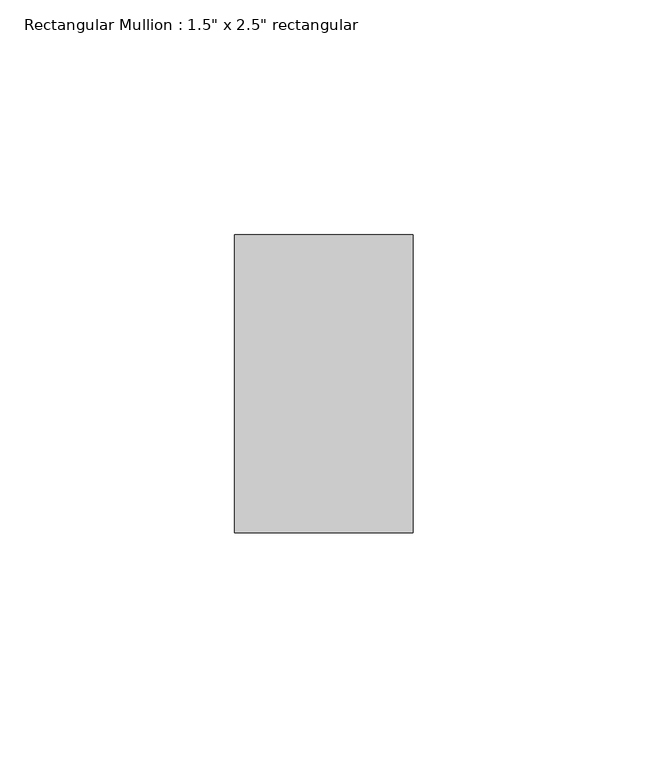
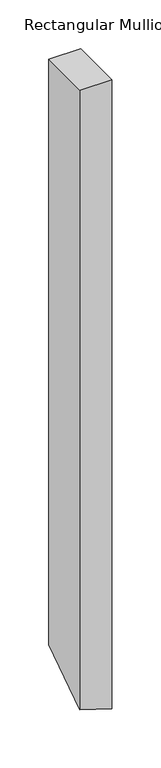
"""IFC4 building model written with IfcOpenShell, lengths in millimetres: member geometry."""

import ifcopenshell
import ifcopenshell.guid

model = None  # the IFC model being written
_history = None  # IfcOwnerHistory: only IFC2X3 demands one
_inside = {}  # id of a spatial element -> (the spatial element, [elements in it])
_under = {}  # id of a project, library or spatial element -> (it, [spatial elements below it])
_declared = {}  # id of a project -> (the project, [libraries it declares])
_typed = {}  # id of a type object -> (the type object, [elements of that type])
_made_of = {}  # id of a material, layer set ... -> (it, [elements and type objects made of it])


def new_model(schema):
    """Start an empty IFC model of exactly this schema.

    Asked for "IFC4X3", IfcOpenShell would pick the latest addendum, in which some entities
    have other attributes; the version numbers below select the first issue.
    IFC2X3 requires an IfcOwnerHistory on every rooted entity: one is made here for all.
    """
    global model, _history
    if schema == "IFC4X3":
        model = ifcopenshell.file(schema_version=(4, 3, 0, 0))
    else:
        model = ifcopenshell.file(schema=schema)
    _inside.clear()
    _under.clear()
    _declared.clear()
    _typed.clear()
    _made_of.clear()
    _history = None
    if model.schema == "IFC2X3":
        org = make("IfcOrganization", Name="unknown")
        user = make(
            "IfcPersonAndOrganization",
            ThePerson=make("IfcPerson", FamilyName="unknown"),
            TheOrganization=org,
        )
        app = make(
            "IfcApplication",
            ApplicationDeveloper=org,
            Version="unknown",
            ApplicationFullName="unknown",
            ApplicationIdentifier="unknown",
        )
        _history = make(
            "IfcOwnerHistory",
            OwningUser=user,
            OwningApplication=app,
            ChangeAction="ADDED",
            CreationDate=0,
        )
    return model


def make(cls, **values):
    """One entity of the class cls with the attributes given. An attribute that is None is left unset."""
    return model.create_entity(
        cls, **{name: value for name, value in values.items() if value is not None}
    )


def rooted(cls, **values):
    """An entity with a GlobalId (a new one), such as an element, a storey or a relation."""
    return make(cls, GlobalId=ifcopenshell.guid.new(), OwnerHistory=_history, **values)


def si_unit(unit_type, name, prefix=None):
    """IfcSIUnit, for example si_unit("LENGTHUNIT", "METRE", prefix="MILLI")."""
    return make("IfcSIUnit", UnitType=unit_type, Prefix=prefix, Name=name)


def assignment(units):
    """IfcUnitAssignment: the units of a project."""
    return None if units is None else make("IfcUnitAssignment", Units=units)


def point(xyz):
    """IfcCartesianPoint."""
    return None if xyz is None else make("IfcCartesianPoint", Coordinates=xyz)


def direction(xyz):
    """IfcDirection."""
    return None if xyz is None else make("IfcDirection", DirectionRatios=xyz)


def frame(location, z_axis=None, x_axis=None):
    """IfcAxis2Placement3D, a coordinate frame: its origin and axes. An axis left out is left unset."""
    return make(
        "IfcAxis2Placement3D",
        Location=point(location),
        Axis=direction(z_axis),
        RefDirection=direction(x_axis),
    )


def origin():
    """The frame at (0, 0, 0) with its axes left unset."""
    return frame((0.0, 0.0, 0.0))


def place(relative_to, where):
    """IfcLocalPlacement: puts the frame where relative to a parent placement (None: the world)."""
    return make(
        "IfcLocalPlacement", PlacementRelTo=relative_to, RelativePlacement=where
    )


def context(
    kind, dimensions, precision=None, world=None, true_north=None, identifier=None
):
    """IfcGeometricRepresentationContext, for example the 3D "Model" context."""
    return make(
        "IfcGeometricRepresentationContext",
        ContextIdentifier=identifier,
        ContextType=kind,
        CoordinateSpaceDimension=dimensions,
        Precision=precision,
        WorldCoordinateSystem=world,
        TrueNorth=true_north,
    )


def project(units=None, contexts=None):
    """IfcProject with its units and contexts."""
    return rooted(
        "IfcProject",
        Name="project",
        RepresentationContexts=contexts,
        UnitsInContext=assignment(units),
    )


def spatial(cls, under=None, at=None, **own):
    """A site, building, storey or space (cls), placed at a placement, below another one or the project."""
    s = rooted(cls, ObjectPlacement=at, **own)
    if under is not None:
        _under.setdefault(under.id(), (under, []))[1].append(s)
    return s


def faces_of(points, faces, orient=None, outer=None):
    """IfcFace entities. A face is a list of loops; a loop is a list of indices into points, from 0.

    orient and outer hold one flag for each loop. By default every Orientation is true, the
    first loop of a face is its IfcFaceOuterBound and the others are IfcFaceBound.
    """
    made = []
    for i, loops in enumerate(faces):
        bounds = []
        for j, loop in enumerate(loops):
            is_outer = j == 0 if outer is None else outer[i][j]
            bounds.append(
                make(
                    "IfcFaceOuterBound" if is_outer else "IfcFaceBound",
                    Bound=make("IfcPolyLoop", Polygon=[points[k] for k in loop]),
                    Orientation=True if orient is None else orient[i][j],
                )
            )
        made.append(make("IfcFace", Bounds=bounds))
    return made


def faceted_brep(points, faces, orient=None, outer=None, voids=None):
    """IfcFacetedBrep: a solid bounded by flat faces; with voids (closed shells), ...WithVoids."""
    shared = [point(p) for p in points]
    hull = make("IfcClosedShell", CfsFaces=faces_of(shared, faces, orient, outer))
    if voids is None:
        return make("IfcFacetedBrep", Outer=hull)
    return make(
        "IfcFacetedBrepWithVoids",
        Outer=hull,
        Voids=[
            make(cls, CfsFaces=faces_of(shared, fs, o, b)) for cls, fs, o, b in voids
        ],
    )


def shape(context_of_items, identifier, shape_type, items):
    """IfcShapeRepresentation: the items that make up one representation, for example the "Body"."""
    return make(
        "IfcShapeRepresentation",
        ContextOfItems=context_of_items,
        RepresentationIdentifier=identifier,
        RepresentationType=shape_type,
        Items=items,
    )


def source(mapping_origin, context_of_items, identifier, shape_type, items):
    """IfcRepresentationMap: a shape defined once, which mapped items show again and again."""
    return make(
        "IfcRepresentationMap",
        MappingOrigin=mapping_origin,
        MappedRepresentation=shape(context_of_items, identifier, shape_type, items),
    )


def transform(
    local_origin,
    x_axis=None,
    y_axis=None,
    z_axis=None,
    scale=None,
    scale2=None,
    scale3=None,
    uniform=True,
):
    """IfcCartesianTransformationOperator3D, or its non-uniform kind. x_axis, y_axis, z_axis: its Axis1, 2, 3."""
    if uniform:
        return make(
            "IfcCartesianTransformationOperator3D",
            Axis1=direction(x_axis),
            Axis2=direction(y_axis),
            LocalOrigin=point(local_origin),
            Scale=scale,
            Axis3=direction(z_axis),
        )
    return make(
        "IfcCartesianTransformationOperator3DnonUniform",
        Axis1=direction(x_axis),
        Axis2=direction(y_axis),
        LocalOrigin=point(local_origin),
        Scale=scale,
        Axis3=direction(z_axis),
        Scale2=scale2,
        Scale3=scale3,
    )


def mapped(mapping_source, mapping_target):
    """IfcMappedItem: shows the shape of a source again, moved by a transform."""
    return make(
        "IfcMappedItem", MappingSource=mapping_source, MappingTarget=mapping_target
    )


def made_of(thing, what):
    """Note that an element or type object is made of a material, layer set ...; save() writes the relation."""
    if what is not None:
        _made_of.setdefault(what.id(), (what, []))[1].append(thing)
    return thing


def element(
    cls,
    number,
    at=None,
    inside=None,
    cuts=None,
    type_object=None,
    material=None,
    context=None,
    identifier="Body",
    shape_type=None,
    held_by="IfcProductDefinitionShape",
    body=None,
    shapes=None,
    **own,
):
    """One element of the class cls, such as IfcWall. Its Tag is "e" and its number.

    at: its placement. inside: the storey or other place that contains it. cuts: it is an
    opening in that element (IfcRelVoidsElement). A single representation is given by context,
    identifier, shape_type and body (its items); several are given by shapes. held_by: the class
    of the entity that holds the representations. save() writes the other relations.
    """
    e = rooted(cls, Tag="e%d" % number, ObjectPlacement=at, **own)
    if body is not None:
        shapes = [shape(context, identifier, shape_type, body)]
    if shapes is not None:
        e.Representation = make(held_by, Representations=shapes)
    if inside is not None:
        _inside.setdefault(inside.id(), (inside, []))[1].append(e)
    if cuts is not None:
        rooted(
            "IfcRelVoidsElement", RelatingBuildingElement=cuts, RelatedOpeningElement=e
        )
    if type_object is not None:
        _typed.setdefault(type_object.id(), (type_object, []))[1].append(e)
    return made_of(e, material)


def aggregate(whole, parts):
    """IfcRelAggregates: a whole, such as a stair, and the parts it consists of."""
    return rooted("IfcRelAggregates", RelatingObject=whole, RelatedObjects=parts)


def save(model, path):
    """Write the relations noted so far, then the file.

    IfcRelAggregates (storeys below a building ...), IfcRelContainedInSpatialStructure (elements
    in a storey), IfcRelDefinesByType, IfcRelAssociatesMaterial and IfcRelDeclares: one each for
    every whole, place, type object, material and project.
    """
    for whole, parts in _under.values():
        aggregate(whole, parts)
    for where, things in _inside.values():
        rooted(
            "IfcRelContainedInSpatialStructure",
            RelatedElements=things,
            RelatingStructure=where,
        )
    for kind, things in _typed.values():
        rooted("IfcRelDefinesByType", RelatedObjects=things, RelatingType=kind)
    for what, things in _made_of.values():
        rooted("IfcRelAssociatesMaterial", RelatedObjects=things, RelatingMaterial=what)
    for by, libraries in _declared.values():
        rooted("IfcRelDeclares", RelatingContext=by, RelatedDefinitions=libraries)
    model.write(path)


def member_7ce4772e(model_context):
    return source(origin(), model_context, "Body", "Brep", [
        faceted_brep([(0.0, 31.75, 0.0), (-38.1, 31.75, 0.0), (-38.1, -31.75, 0.0), (0.0, -31.75, 0.0), (0.0, 31.75, -744.9708642), (-38.1, 31.75, -733.119785), (-38.1, -31.75, -775.8195887), (0.0, -31.75, -787.6706679)], [[[0, 1, 2, 3]], [[1, 0, 4, 5]], [[2, 1, 5, 6]], [[3, 2, 6, 7]], [[0, 3, 7, 4]], [[4, 7, 6, 5]]]),
    ])


if __name__ == "__main__":
    model = new_model("IFC4")
    model_context = context("Model", 3, world=origin())
    ifc_project = project(units=[si_unit("LENGTHUNIT", "METRE", prefix="MILLI")], contexts=[model_context])
    site = spatial("IfcSite", under=ifc_project)
    building = spatial("IfcBuilding", under=site)
    placement = place(None, origin())
    member_shape = member_7ce4772e(model_context)
    element("IfcMember", 1, ObjectType="Rectangular Mullion : 1.5\" x 2.5\" rectangular", at=placement, inside=building, context=model_context, shape_type="MappedRepresentation", body=[
        mapped(member_shape, transform((0.0, 0.0, 0.0), x_axis=(1.0, 0.0, 0.0), y_axis=(0.0, 1.0, 0.0), z_axis=(0.0, 0.0, 1.0))),
    ])
    save(model, "model.ifc")
